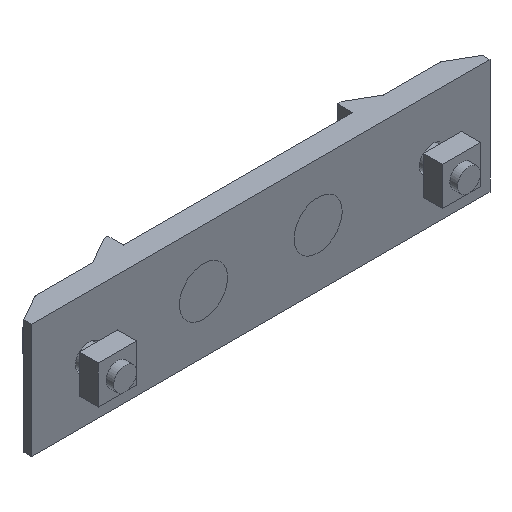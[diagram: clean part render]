
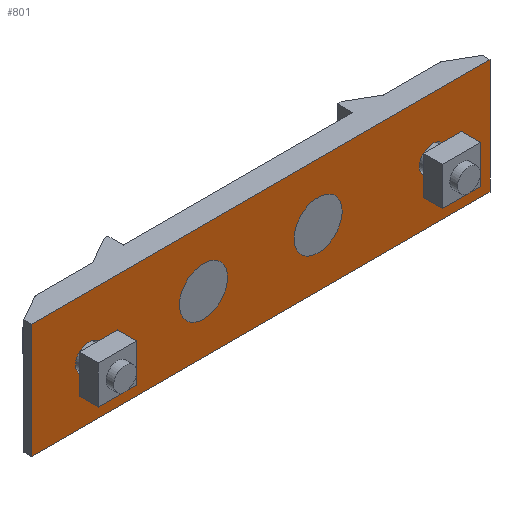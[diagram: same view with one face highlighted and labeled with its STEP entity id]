
A CAD part, isometric view. The second image highlights one B-rep face of the part: STEP entity #801.
In plain terms, the highlighted planar face has unit normal (0, -1, 0).
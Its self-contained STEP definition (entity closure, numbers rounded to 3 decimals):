
#123=CARTESIAN_POINT('',(-48.5,0.,0.0));
#124=VERTEX_POINT('',#123);
#125=CARTESIAN_POINT('',(-45.,0.0,0.0));
#126=DIRECTION('',(0.0,1.0,0.0));
#127=DIRECTION('',(-1.0,0.0,0.0));
#128=AXIS2_PLACEMENT_3D('',#125,#126,#127);
#129=CIRCLE('',#128,3.5);
#130=EDGE_CURVE('',#124,#124,#129,.T.);
#140=CARTESIAN_POINT('',(-21.3,0.,0.0));
#141=VERTEX_POINT('',#140);
#142=CARTESIAN_POINT('',(-15.,0.,0.0));
#143=DIRECTION('',(0.0,1.0,0.0));
#144=DIRECTION('',(-1.0,0.0,0.0));
#145=AXIS2_PLACEMENT_3D('',#142,#143,#144);
#146=CIRCLE('',#145,6.3);
#147=EDGE_CURVE('',#141,#141,#146,.T.);
#220=CARTESIAN_POINT('',(48.5,0.,0.0));
#221=VERTEX_POINT('',#220);
#222=CARTESIAN_POINT('',(45.,0.0,0.0));
#223=DIRECTION('',(0.0,1.0,0.0));
#224=DIRECTION('',(1.0,0.0,0.0));
#225=AXIS2_PLACEMENT_3D('',#222,#223,#224);
#226=CIRCLE('',#225,3.5);
#227=EDGE_CURVE('',#221,#221,#226,.T.);
#258=CARTESIAN_POINT('',(21.3,0.,0.0));
#259=VERTEX_POINT('',#258);
#260=CARTESIAN_POINT('',(15.,0.,0.0));
#261=DIRECTION('',(0.0,1.0,0.0));
#262=DIRECTION('',(1.0,0.0,0.0));
#263=AXIS2_PLACEMENT_3D('',#260,#261,#262);
#264=CIRCLE('',#263,6.3);
#265=EDGE_CURVE('',#259,#259,#264,.T.);
#327=CARTESIAN_POINT('',(60.,0.,-15.));
#328=VERTEX_POINT('',#327);
#337=CARTESIAN_POINT('',(-60.,0.,-15.));
#338=VERTEX_POINT('',#337);
#339=CARTESIAN_POINT('',(-60.,0.,-15.));
#340=DIRECTION('',(1.0,0.0,0.0));
#341=VECTOR('',#340,120.0);
#342=LINE('',#339,#341);
#343=EDGE_CURVE('',#338,#328,#342,.T.);
#447=CARTESIAN_POINT('',(-60.,0.,15.));
#448=VERTEX_POINT('',#447);
#464=CARTESIAN_POINT('',(-60.,0.,15.));
#465=DIRECTION('',(0.0,0.0,-1.0));
#466=VECTOR('',#465,30.);
#467=LINE('',#464,#466);
#468=EDGE_CURVE('',#448,#338,#467,.T.);
#754=CARTESIAN_POINT('',(60.,0.,15.));
#755=VERTEX_POINT('',#754);
#762=CARTESIAN_POINT('',(60.,0.,-15.));
#763=DIRECTION('',(0.0,0.0,1.0));
#764=VECTOR('',#763,30.);
#765=LINE('',#762,#764);
#766=EDGE_CURVE('',#328,#755,#765,.T.);
#773=CARTESIAN_POINT('',(60.,0.,0.0));
#774=DIRECTION('',(0.0,-1.0,0.0));
#775=DIRECTION('',(0.0,0.0,-1.0));
#776=AXIS2_PLACEMENT_3D('',#773,#774,#775);
#777=PLANE('',#776);
#778=CARTESIAN_POINT('',(60.,0.,15.));
#779=DIRECTION('',(-1.0,0.0,0.0));
#780=VECTOR('',#779,120.0);
#781=LINE('',#778,#780);
#782=EDGE_CURVE('',#755,#448,#781,.T.);
#783=ORIENTED_EDGE('',*,*,#782,.T.);
#784=ORIENTED_EDGE('',*,*,#468,.T.);
#785=ORIENTED_EDGE('',*,*,#343,.T.);
#786=ORIENTED_EDGE('',*,*,#766,.T.);
#787=EDGE_LOOP('',(#783,#784,#785,#786));
#788=FACE_OUTER_BOUND('',#787,.T.);
#789=ORIENTED_EDGE('',*,*,#130,.T.);
#790=EDGE_LOOP('',(#789));
#791=FACE_BOUND('',#790,.T.);
#792=ORIENTED_EDGE('',*,*,#147,.T.);
#793=EDGE_LOOP('',(#792));
#794=FACE_BOUND('',#793,.T.);
#795=ORIENTED_EDGE('',*,*,#227,.T.);
#796=EDGE_LOOP('',(#795));
#797=FACE_BOUND('',#796,.T.);
#798=ORIENTED_EDGE('',*,*,#265,.T.);
#799=EDGE_LOOP('',(#798));
#800=FACE_BOUND('',#799,.T.);
#801=ADVANCED_FACE('',(#788,#791,#794,#797,#800),#777,.T.);
